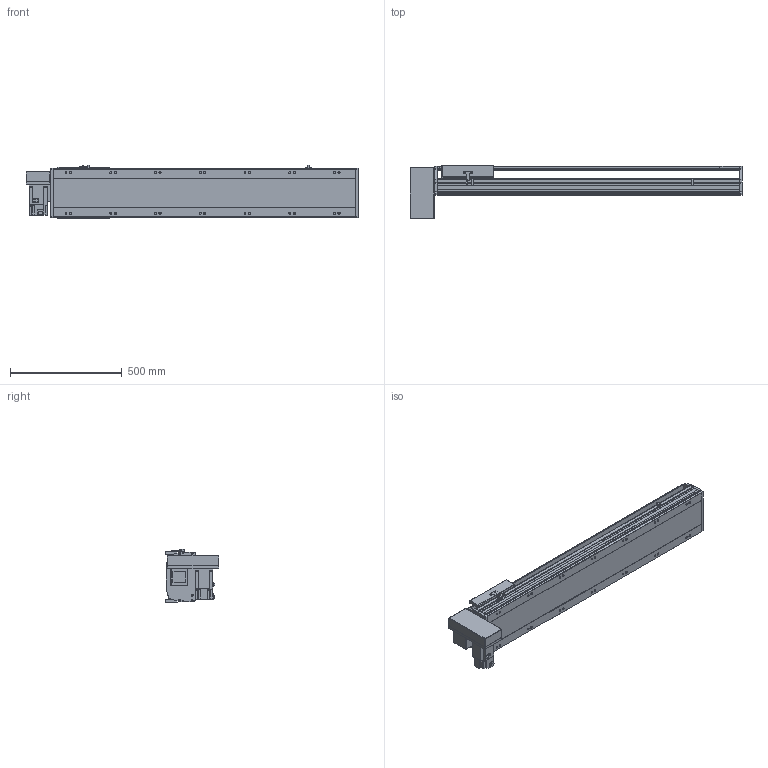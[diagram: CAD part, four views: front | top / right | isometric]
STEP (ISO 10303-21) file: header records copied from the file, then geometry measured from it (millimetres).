
FILE_DESCRIPTION(/* description */ ('STEP AP214'),/* implementation_level */ '2;1');
FILE_NAME(/* name */ 'PBS220-P40-S1000-RD-T75-C1-N(0)',/* time_stamp */ '2022-06-13T02:41:46+02:00',/* author */ ('License CC BY-ND 4.0'),/* organization */ ('CADENAS'),/* preprocessor_version */ 'ST-DEVELOPER v18.102',/* originating_system */ 'PARTsolutions',/* authorisation */ ' ');
FILE_SCHEMA (('AUTOMOTIVE_DESIGN {1 0 10303 214 3 1 1}'));
Length unit declared in the file: millimetre
Products named in the file (7): PBS220-P40-S1000-RD-T75-C1-N(0); PBS220_sensor; PBS220_plant; PBS220_sliser; T75-p1; PBS220T-RD_motors; PBS220-S1000()_body
Assembly tree (8 placements, depth 2):
  PBS220-P40-S1000-RD-T75-C1-N(0)
    PBS220_sensor  x3
    PBS220_plant
    PBS220_sliser
    T75-p1
    PBS220T-RD_motors
    PBS220-S1000()_body
Bounding box: 1484 x 239 x 238.5 mm (x, y, z)
Volume: 21462328.6 mm3; surface area: 2098735.5 mm2
Topology: 8 solids, 8 shells, 902 faces, 2368 edges, 1540 vertices
Faces by surface type: plane 594, cylinder 270, cone 38
Full cylindrical faces by diameter (mm): 2.013 x4, 4.5 x14, 4.917 x4, 6 x7, 6.647 x8, 8 x10, 8.376 x14, 8.5 x14, 10 x6, 14 x14, 38 x2, 40 x1, 70 x1
Entity records: 25317 total; most frequent: CARTESIAN_POINT 4426, DIRECTION 4401, ORIENTED_EDGE 4070, EDGE_CURVE 2035, AXIS2_PLACEMENT_3D 1529, VERTEX_POINT 1400, LINE 1343, VECTOR 1343
